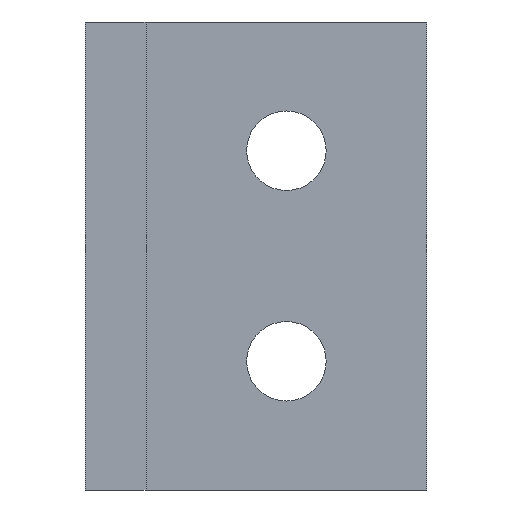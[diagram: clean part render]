
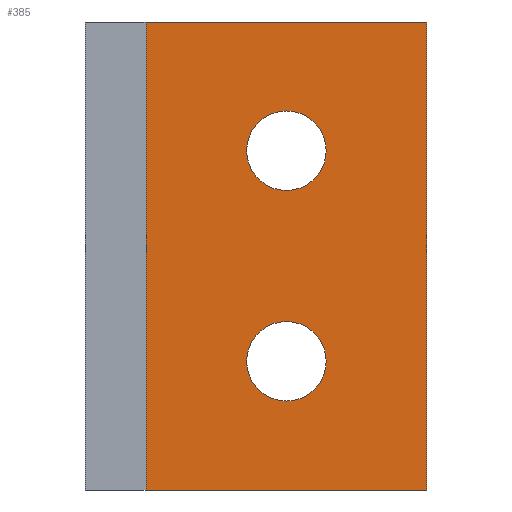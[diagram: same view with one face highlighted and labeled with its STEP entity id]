
A CAD part, left-side view. The second image highlights one B-rep face of the part: STEP entity #385.
In plain terms, the highlighted planar face has unit normal (-1, 0, 0).
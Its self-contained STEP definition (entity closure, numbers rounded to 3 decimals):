
#64 = VERTEX_POINT('',#65);
#65 = CARTESIAN_POINT('',(0.,0.,20.));
#103 = VERTEX_POINT('',#104);
#104 = CARTESIAN_POINT('',(0.,12.,20.));
#110 = EDGE_CURVE('',#64,#103,#111,.T.);
#111 = LINE('',#112,#113);
#112 = CARTESIAN_POINT('',(0.,0.,20.));
#113 = VECTOR('',#114,1.);
#114 = DIRECTION('',(0.,1.,0.));
#151 = VERTEX_POINT('',#152);
#152 = CARTESIAN_POINT('',(0.,0.,0.));
#158 = EDGE_CURVE('',#151,#159,#161,.T.);
#159 = VERTEX_POINT('',#160);
#160 = CARTESIAN_POINT('',(0.,12.,0.));
#161 = LINE('',#162,#163);
#162 = CARTESIAN_POINT('',(0.,0.,0.));
#163 = VECTOR('',#164,1.);
#164 = DIRECTION('',(0.,1.,0.));
#323 = EDGE_CURVE('',#151,#64,#324,.T.);
#324 = LINE('',#325,#326);
#325 = CARTESIAN_POINT('',(0.,0.,0.));
#326 = VECTOR('',#327,1.);
#327 = DIRECTION('',(0.,0.,1.));
#375 = EDGE_CURVE('',#159,#103,#376,.T.);
#376 = LINE('',#377,#378);
#377 = CARTESIAN_POINT('',(0.,12.,0.));
#378 = VECTOR('',#379,1.);
#379 = DIRECTION('',(0.,0.,1.));
#385 = ADVANCED_FACE('',(#386,#392,#403),#414,.T.);
#386 = FACE_BOUND('',#387,.T.);
#387 = EDGE_LOOP('',(#388,#389,#390,#391));
#388 = ORIENTED_EDGE('',*,*,#158,.F.);
#389 = ORIENTED_EDGE('',*,*,#323,.T.);
#390 = ORIENTED_EDGE('',*,*,#110,.T.);
#391 = ORIENTED_EDGE('',*,*,#375,.F.);
#392 = FACE_BOUND('',#393,.T.);
#393 = EDGE_LOOP('',(#394));
#394 = ORIENTED_EDGE('',*,*,#395,.T.);
#395 = EDGE_CURVE('',#396,#396,#398,.T.);
#396 = VERTEX_POINT('',#397);
#397 = CARTESIAN_POINT('',(0.,6.,7.2));
#398 = CIRCLE('',#399,1.7);
#399 = AXIS2_PLACEMENT_3D('',#400,#401,#402);
#400 = CARTESIAN_POINT('',(0.,6.,5.5));
#401 = DIRECTION('',(1.,0.,0.));
#402 = DIRECTION('',(0.,0.,1.));
#403 = FACE_BOUND('',#404,.T.);
#404 = EDGE_LOOP('',(#405));
#405 = ORIENTED_EDGE('',*,*,#406,.T.);
#406 = EDGE_CURVE('',#407,#407,#409,.T.);
#407 = VERTEX_POINT('',#408);
#408 = CARTESIAN_POINT('',(0.,6.,16.2));
#409 = CIRCLE('',#410,1.7);
#410 = AXIS2_PLACEMENT_3D('',#411,#412,#413);
#411 = CARTESIAN_POINT('',(0.,6.,14.5));
#412 = DIRECTION('',(1.,0.,0.));
#413 = DIRECTION('',(0.,0.,1.));
#414 = PLANE('',#415);
#415 = AXIS2_PLACEMENT_3D('',#416,#417,#418);
#416 = CARTESIAN_POINT('',(0.,0.,0.));
#417 = DIRECTION('',(-1.,0.,0.));
#418 = DIRECTION('',(0.,0.,1.));
